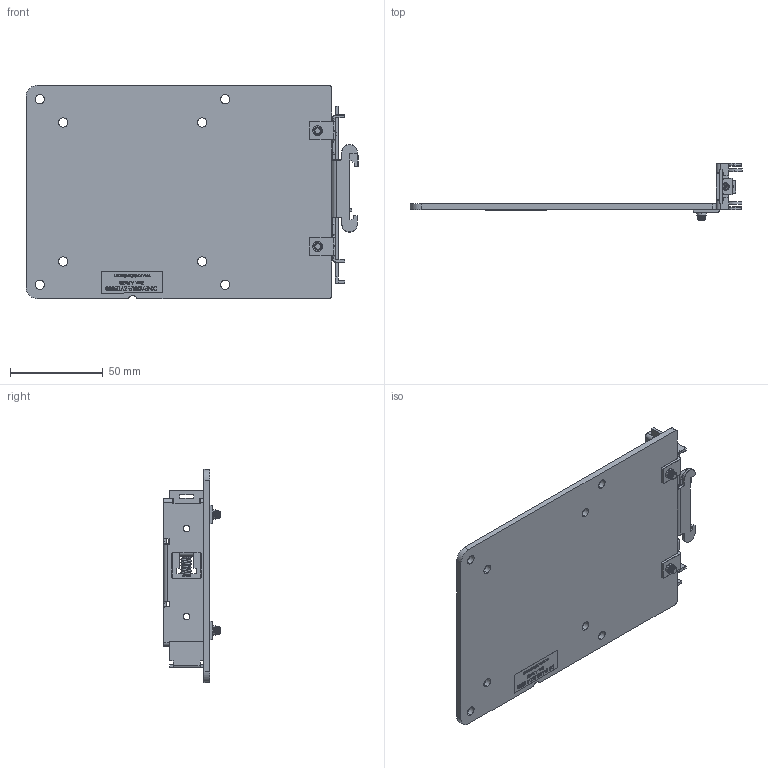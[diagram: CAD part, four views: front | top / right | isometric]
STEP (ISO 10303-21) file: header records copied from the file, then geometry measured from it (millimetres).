
FILE_DESCRIPTION (( 'STEP AP214' ), '1' );
FILE_NAME ('dinpa03lr-zve100b_rev_a.step', '2024-12-12T19:08:01', ( '' ), ( '' ), 'SwSTEP 2.0', 'SolidWorks 2018', '' );
FILE_SCHEMA (( 'AUTOMOTIVE_DESIGN' ));
Length unit declared in the file: inch
Products named in the file (5): dinpa03lr-zve100b_label; M4 8mm FH_M4 8mm FH; DINM30LR; dinpa03lr-zve100b_rev_a; Z_DINPA03LR-ZVE100B-PLATE
Assembly tree (5 placements, depth 2):
  dinpa03lr-zve100b_rev_a
    Z_DINPA03LR-ZVE100B-PLATE
    DINM30LR
    M4 8mm FH_M4 8mm FH  x2
    dinpa03lr-zve100b_label
Bounding box: 179.16 x 30.82 x 115 mm (x, y, z)
Volume: 66323.3 mm3; surface area: 52017.8 mm2
Topology: 7 solids, 7 shells, 1253 faces, 3280 edges, 2088 vertices
Faces by surface type: plane 584, cylinder 309, bspline 203, torus 100, cone 42, sphere 15
Entity records: 62170 total; most frequent: CARTESIAN_POINT 21705, ORIENTED_EDGE 6126, DIRECTION 5141, EDGE_CURVE 3063, VERTEX_POINT 1958, LINE 1913, VECTOR 1913, AXIS2_PLACEMENT_3D 1614
